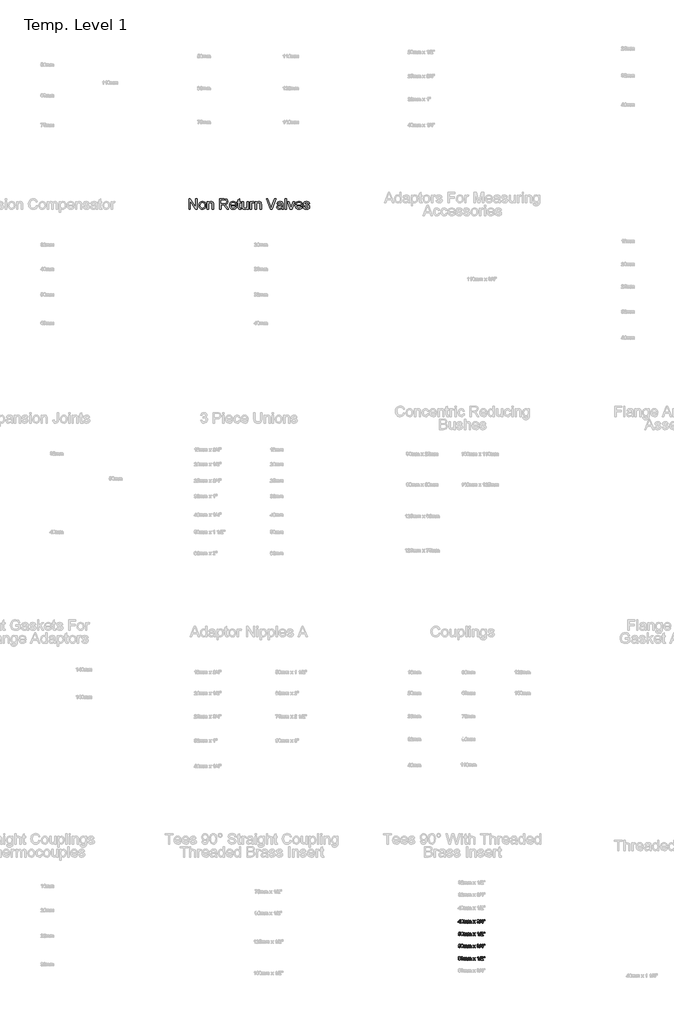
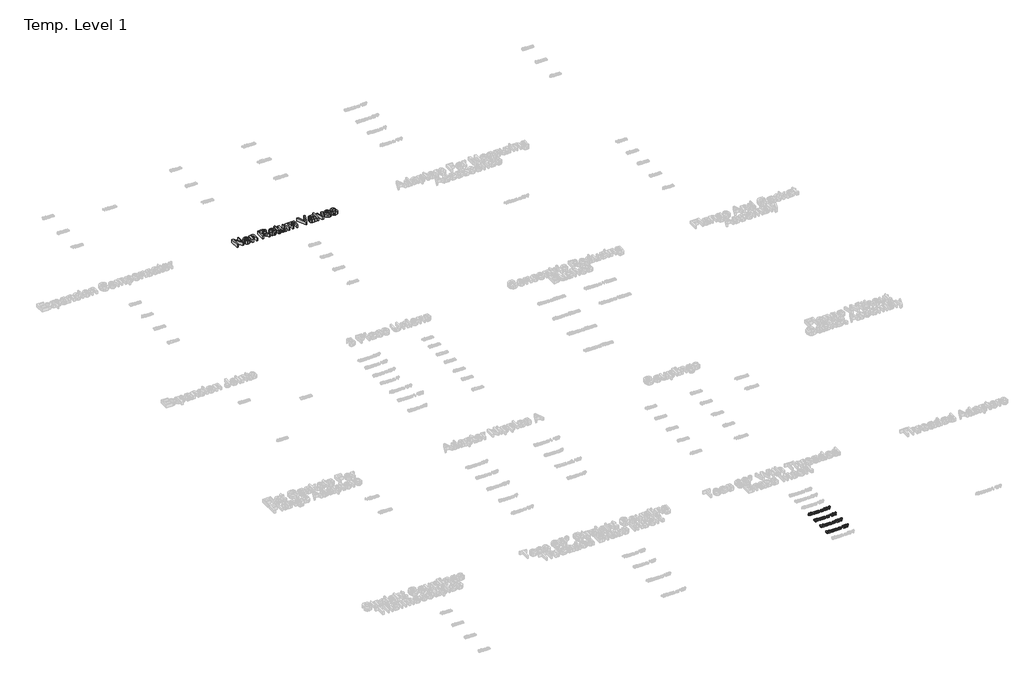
# One storey, part 17 of 62: 5 proxies.
"""IFC4 building model written with IfcOpenShell, lengths in millimetres."""

from ifc_helpers import new_model, si_unit, origin, origin_with_axes, place, context, project, spatial, polyline, outline, extrude, element, save

model = new_model("IFC4")

# Units and contexts
model_context = context("Model", 3, world=origin())
ifc_project = project(units=[si_unit("LENGTHUNIT", "METRE", prefix="MILLI")], contexts=[model_context])

# Site, building, storey
site = spatial("IfcSite", under=ifc_project)
building = spatial("IfcBuilding", under=site)
storey = spatial("IfcBuildingStorey", under=building, Name="Temp. Level 1", Elevation=0.0)

# Proxies
placement = place(None, origin())
element("IfcBuildingElementProxy", 1, Name="150mm Arial", ObjectType="150mm Arial", at=placement, inside=storey, context=model_context, shape_type="SweptSolid", body=[
    extrude(outline(polyline([(14575.7330212, -1070.198517), (14575.7330212, -922.5062093), (14595.4926365, -922.5062093), (14672.6560981, -1039.5134209), (14672.6560981, -922.5062093), (14691.1176365, -922.5062093), (14691.1176365, -1070.198517), (14671.3580212, -1070.198517), (14594.1945596, -953.1552478), (14594.1945596, -1070.198517), (14575.7330212, -1070.198517)])), origin_with_axes(), (0.0, 0.0, 1.0), 50.0),
    extrude(outline(polyline([(14716.5022519, -1015.9677478), (14720.4956413, -989.8169064), (14732.4758096, -971.4364978), (14747.2774923, -962.4310891), (14764.9998481, -959.4292862), (14784.3943793, -963.0846348), (14799.8856654, -974.0506805), (14810.040413, -991.4620387), (14813.4253288, -1014.4533247), (14811.9289346, -1033.1041661), (14807.4397519, -1047.3018824), (14800.0884899, -1057.9343944), (14790.0058577, -1065.8896228), (14778.0301966, -1070.8520627), (14764.9998481, -1072.5062093), (14745.3709418, -1068.8643824), (14729.8976846, -1057.9389016), (14719.8511101, -1040.1624593), (14716.5022519, -1015.9677478)]), holes=[polyline([(14734.9637904, -1015.9316901), (14737.1002087, -1032.6399233), (14743.5094635, -1044.5434689), (14753.1548962, -1051.6693704), (14764.9998481, -1054.0446709), (14776.7907135, -1051.6558487), (14786.4181173, -1044.4893824), (14792.8273721, -1032.4280843), (14794.9637904, -1015.354767), (14792.8138505, -999.1333127), (14786.3640308, -987.3920266), (14776.7231053, -980.2661252), (14764.9998481, -977.8908247), (14753.1548962, -980.2571108), (14743.5094635, -987.3559689), (14737.1002087, -999.2324713), (14734.9637904, -1015.9316901)])]), origin_with_axes(), (0.0, 0.0, 1.0), 50.0),
    extrude(outline(polyline([(14834.1945596, -1070.198517), (14834.1945596, -961.7369786), (14852.6560981, -961.7369786), (14852.6560981, -976.8812093), (14866.7726846, -963.792267), (14886.0455212, -959.4292862), (14903.4794154, -962.9449112), (14915.3784538, -972.1756805), (14920.9133096, -985.7514016), (14921.8868673, -1003.5999593), (14921.8868673, -1070.198517), (14903.4253288, -1070.198517), (14903.4253288, -1006.0879401), (14901.297925, -989.7538055), (14893.7798962, -981.1179882), (14881.1056173, -977.8908247), (14870.2928168, -979.7027237), (14861.0755692, -985.1384209), (14854.7609659, -995.6402237), (14852.6560981, -1012.6504401), (14852.6560981, -1070.198517), (14834.1945596, -1070.198517)])), origin_with_axes(), (0.0, 0.0, 1.0), 50.0),
    extrude(outline(polyline([(15007.2714827, -1070.198517), (15007.2714827, -922.5062093), (15070.9133096, -922.5062093), (15100.4625885, -926.4905843), (15109.5581413, -932.0074112), (15116.6164346, -940.589142), (15121.1461822, -951.2306685), (15122.6560981, -962.9268824), (15120.1545957, -977.4761612), (15112.6500885, -989.5374593), (15099.9172159, -998.3806084), (15081.7306173, -1003.2754401), (15092.2234058, -1011.1720747), (15107.1873481, -1030.1744786), (15131.8147519, -1070.198517), (15110.360425, -1070.198517), (15091.141675, -1039.5855362), (15077.2594635, -1019.3211132), (15067.5058577, -1009.7477959), (15058.7258096, -1006.2321709), (15048.016675, -1005.5831324), (15025.7330212, -1005.5831324), (15025.7330212, -1070.198517), (15007.2714827, -1070.198517)]), holes=[polyline([(15025.7330212, -987.1215939), (15067.0551365, -987.1215939), (15088.1308577, -984.5074112), (15100.1020115, -976.1420266), (15104.1945596, -963.6119786), (15102.242937, -954.6065699), (15096.3880692, -947.3499593), (15086.3144514, -942.5633007), (15071.7065788, -940.9677478), (15025.7330212, -940.9677478), (15025.7330212, -987.1215939)])]), origin_with_axes(), (0.0, 0.0, 1.0), 50.0),
    extrude(outline(polyline([(15228.5935981, -1037.8908247), (15246.6945596, -1040.198517), (15240.1726245, -1053.8373391), (15229.7654731, -1064.0326516), (15215.7074803, -1070.3878199), (15198.2330212, -1072.5062093), (15176.5713625, -1068.8508608), (15159.9036942, -1057.8848151), (15149.2756894, -1040.3202117), (15145.7330212, -1016.8691901), (15149.3117471, -992.6294064), (15160.047925, -974.5014016), (15176.4902327, -963.1973151), (15197.1873481, -959.4292862), (15217.2399322, -963.1883007), (15233.2630692, -974.4653439), (15243.7693793, -992.5572911), (15247.2714827, -1016.761017), (15247.1633096, -1021.7369786), (15164.1945596, -1021.7369786), (15167.3901726, -1035.5560891), (15174.81355, -1045.7153439), (15185.5271918, -1051.9623391), (15198.5935981, -1054.0446709), (15216.6945596, -1050.1864978), (15228.5935981, -1037.8908247)]), holes=[polyline([(15164.1945596, -1003.2754401), (15228.8099442, -1003.2754401), (15226.312949, -993.5218343), (15221.4181173, -986.5446709), (15210.6548962, -980.0542862), (15197.1152327, -977.8908247), (15184.6708216, -979.6170867), (15174.3808577, -984.7958728), (15167.227913, -992.8682887), (15164.1945596, -1003.2754401)])]), origin_with_axes(), (0.0, 0.0, 1.0), 50.0),
    extrude(outline(polyline([(15304.9637904, -1054.8018824), (15307.2714827, -1070.7393824), (15293.4613865, -1072.5062093), (15277.9926365, -1069.4413055), (15270.2762904, -1061.4004401), (15268.0407135, -1040.4509209), (15268.0407135, -980.198517), (15254.1945596, -980.198517), (15254.1945596, -961.7369786), (15268.0407135, -961.7369786), (15268.0407135, -935.3788055), (15286.5022519, -924.5254401), (15286.5022519, -961.7369786), (15304.9637904, -961.7369786), (15304.9637904, -980.198517), (15286.5022519, -980.198517), (15286.5022519, -1039.9100555), (15287.4758096, -1049.4292862), (15290.6308577, -1052.8006805), (15296.922925, -1054.0446709), (15304.9637904, -1054.8018824)])), origin_with_axes(), (0.0, 0.0, 1.0), 50.0),
    extrude(outline(polyline([(15392.6560981, -1070.198517), (15392.6560981, -1051.5566901), (15378.1969635, -1067.2688295), (15359.3387904, -1072.5062093), (15341.9770115, -1068.8283247), (15330.0058577, -1059.5975555), (15324.5070596, -1046.0038055), (15323.4253288, -1028.8403439), (15323.4253288, -961.7369786), (15341.8868673, -961.7369786), (15341.8868673, -1020.1504401), (15343.0046558, -1038.9725555), (15350.3063385, -1050.0242382), (15364.0623481, -1054.0446709), (15379.4770115, -1049.9340939), (15389.6633096, -1038.7381805), (15392.6560981, -1018.167267), (15392.6560981, -961.7369786), (15411.1176365, -961.7369786), (15411.1176365, -1070.198517), (15392.6560981, -1070.198517)])), origin_with_axes(), (0.0, 0.0, 1.0), 50.0),
    extrude(outline(polyline([(15436.5022519, -1070.198517), (15436.5022519, -961.7369786), (15452.6560981, -961.7369786), (15452.6560981, -977.7826516), (15464.1224442, -962.9989978), (15475.6609058, -959.4292862), (15494.1945596, -965.1264016), (15488.0286942, -981.6768824), (15475.047925, -977.8908247), (15464.6092231, -981.5326516), (15457.9565788, -991.6288055), (15454.9637904, -1013.1913055), (15454.9637904, -1070.198517), (15436.5022519, -1070.198517)])), origin_with_axes(), (0.0, 0.0, 1.0), 50.0),
    extrude(outline(polyline([(15505.7330212, -1070.198517), (15505.7330212, -961.7369786), (15524.1945596, -961.7369786), (15524.1945596, -976.8812093), (15538.3111462, -963.792267), (15557.5839827, -959.4292862), (15575.0178769, -962.9449112), (15586.9169154, -972.1756805), (15592.4517712, -985.7514016), (15593.4253288, -1003.5999593), (15593.4253288, -1070.198517), (15574.9637904, -1070.198517), (15574.9637904, -1006.0879401), (15572.8363865, -989.7538055), (15565.3183577, -981.1179882), (15552.6440788, -977.8908247), (15541.8312784, -979.7027237), (15532.6140308, -985.1384209), (15526.2994274, -995.6402237), (15524.1945596, -1012.6504401), (15524.1945596, -1070.198517), (15505.7330212, -1070.198517)])), origin_with_axes(), (0.0, 0.0, 1.0), 50.0),
    extrude(outline(polyline([(15722.4397519, -1070.198517), (15663.6657135, -922.5062093), (15683.4253288, -922.5062093), (15722.7642712, -1028.9124593), (15730.7330212, -1052.8908247), (15738.5935981, -1028.9124593), (15778.0407135, -922.5062093), (15797.8003288, -922.5062093), (15741.5142712, -1070.198517), (15722.4397519, -1070.198517)])), origin_with_axes(), (0.0, 0.0, 1.0), 50.0),
    extrude(outline(polyline([(15881.8868673, -1056.3523632), (15863.9842231, -1068.8643824), (15844.2065788, -1072.5062093), (15828.7783938, -1070.3157045), (15817.3976846, -1063.7441901), (15810.3799563, -1053.7652237), (15808.0407135, -1041.3523632), (15811.5743673, -1026.7489978), (15820.8592231, -1016.1480362), (15833.7859058, -1010.0903439), (15849.7594635, -1007.3139016), (15881.7786942, -1000.9677478), (15881.8868673, -996.8571709), (15880.6158337, -988.6179882), (15876.8027327, -983.2273632), (15868.2750885, -979.2249593), (15856.3940788, -977.8908247), (15837.7161942, -981.4425074), (15828.8099442, -994.0446709), (15810.3484058, -991.7369786), (15818.3351846, -973.7081324), (15834.4169154, -963.1432286), (15858.7738865, -959.4292862), (15881.1476846, -962.7105362), (15893.7859058, -970.9497189), (15899.4469635, -983.479767), (15900.3484058, -999.6336132), (15900.3484058, -1022.6023632), (15901.2859058, -1054.6756805), (15904.9637904, -1070.198517), (15886.5022519, -1070.198517), (15881.8868673, -1056.3523632)]), holes=[polyline([(15881.8868673, -1019.4292862), (15852.1032135, -1025.0903439), (15836.2198, -1028.0831324), (15829.0262904, -1032.9509209), (15826.5022519, -1040.0542862), (15832.00105, -1050.042267), (15848.1368673, -1054.0446709), (15866.8147519, -1049.6276036), (15878.8580212, -1038.9364978), (15881.7786942, -1024.6576516), (15881.8868673, -1019.4292862)])]), origin_with_axes(), (0.0, 0.0, 1.0), 50.0),
    extrude(outline(polyline([(15925.7330212, -1070.198517), (15925.7330212, -922.5062093), (15944.1945596, -922.5062093), (15944.1945596, -1070.198517), (15925.7330212, -1070.198517)])), origin_with_axes(), (0.0, 0.0, 1.0), 50.0),
    extrude(outline(polyline([(15998.4974442, -1070.198517), (15960.3484058, -961.7369786), (15979.891675, -961.7369786), (16003.0046558, -1026.7129401), (16009.9637904, -1048.5639016), (16016.7786942, -1027.9389016), (16040.0359058, -961.7369786), (16059.579175, -961.7369786), (16021.8988865, -1070.198517), (15998.4974442, -1070.198517)])), origin_with_axes(), (0.0, 0.0, 1.0), 50.0),
    extrude(outline(polyline([(16151.6705212, -1037.8908247), (16169.7714827, -1040.198517), (16163.2495476, -1053.8373391), (16152.8423962, -1064.0326516), (16138.7844034, -1070.3878199), (16121.3099442, -1072.5062093), (16099.6482856, -1068.8508608), (16082.9806173, -1057.8848151), (16072.3526125, -1040.3202117), (16068.8099442, -1016.8691901), (16072.3886702, -992.6294064), (16083.1248481, -974.5014016), (16099.5671558, -963.1973151), (16120.2642712, -959.4292862), (16140.3168553, -963.1883007), (16156.3399923, -974.4653439), (16166.8463024, -992.5572911), (16170.3484058, -1016.761017), (16170.2402327, -1021.7369786), (16087.2714827, -1021.7369786), (16090.4670957, -1035.5560891), (16097.8904731, -1045.7153439), (16108.6041149, -1051.9623391), (16121.6705212, -1054.0446709), (16139.7714827, -1050.1864978), (16151.6705212, -1037.8908247)]), holes=[polyline([(16087.2714827, -1003.2754401), (16151.8868673, -1003.2754401), (16149.3898721, -993.5218343), (16144.4950404, -986.5446709), (16133.7318192, -980.0542862), (16120.1921558, -977.8908247), (16107.7477447, -979.6170867), (16097.4577808, -984.7958728), (16090.3048361, -992.8682887), (16087.2714827, -1003.2754401)])]), origin_with_axes(), (0.0, 0.0, 1.0), 50.0),
    extrude(outline(polyline([(16181.8868673, -1037.8908247), (16200.3484058, -1035.5831324), (16203.2600644, -1043.479767), (16208.8940788, -1049.2850555), (16228.4734058, -1054.0446709), (16247.2955212, -1049.6816901), (16253.4253288, -1039.4413055), (16247.2594635, -1031.1480362), (16228.2570596, -1025.8836132), (16200.4565788, -1016.8511612), (16188.3231654, -1006.3042862), (16184.1945596, -991.4124593), (16187.5118673, -977.6564497), (16196.5623481, -967.1456324), (16208.2991269, -961.682892), (16224.1825404, -959.4292862), (16246.6464827, -963.0530843), (16260.9253288, -972.8607766), (16267.2714827, -989.4292862), (16248.8099442, -991.7369786), (16241.8688385, -981.5506805), (16225.6248481, -977.8908247), (16207.9565788, -981.3884209), (16202.6560981, -989.5374593), (16204.8556173, -994.9100555), (16211.7426365, -998.9845747), (16227.6440788, -1002.9148632), (16254.7414346, -1011.604767), (16267.3255692, -1021.448517), (16271.8868673, -1037.4941901), (16266.5323, -1055.1624593), (16251.0815788, -1067.9809689), (16228.2210019, -1072.5062093), (16209.6062183, -1070.3247189), (16196.0214827, -1063.7802478), (16186.9529731, -1052.9449112), (16181.8868673, -1037.8908247)])), origin_with_axes(), (0.0, 0.0, 1.0), 50.0),
])
element("IfcBuildingElementProxy", 2, Name="50mm Arial", ObjectType="50mm Arial", at=placement, inside=storey, context=model_context, shape_type="SweptSolid", body=[
    extrude(outline(polyline([(18379.5497295, -11087.301875), (18379.5497295, -11075.7634134), (18357.2420372, -11075.7634134), (18357.2420372, -11069.6095673), (18381.0881911, -11038.8403365), (18385.7035757, -11038.8403365), (18385.7035757, -11069.6095673), (18391.8574218, -11069.6095673), (18391.8574218, -11075.7634134), (18385.7035757, -11075.7634134), (18385.7035757, -11087.301875), (18379.5497295, -11087.301875)]), holes=[polyline([(18379.5497295, -11069.6095673), (18379.5497295, -11050.5951442), (18364.8141526, -11069.6095673), (18379.5497295, -11069.6095673)])]), origin_with_axes(), (0.0, 0.0, 1.0), 15.0),
    extrude(outline(polyline([(18397.2420372, -11063.083125), (18399.0509314, -11048.9184615), (18404.4235276, -11040.7513942), (18413.3958834, -11038.0711057), (18420.5833834, -11039.6576442), (18425.5473257, -11044.2309615), (18428.4319411, -11051.5146154), (18429.5497295, -11063.083125), (18427.7588641, -11077.1876923), (18422.4042968, -11085.3727884), (18413.3958834, -11088.0711057), (18402.1458834, -11083.3836057), (18398.4679987, -11075.0572836), (18397.2420372, -11063.083125)]), holes=[polyline([(18403.3958834, -11063.0711057), (18406.2804987, -11078.3535577), (18413.3958834, -11081.9172596), (18420.511268, -11078.3415384), (18423.3958834, -11063.0711057), (18420.6074218, -11047.9629327), (18413.323768, -11044.2249519), (18406.3766526, -11047.5182211), (18403.3958834, -11063.0711057)])]), origin_with_axes(), (0.0, 0.0, 1.0), 15.0),
    extrude(outline(polyline([(18436.4728064, -11087.301875), (18436.4728064, -11051.1480288), (18442.6266526, -11051.1480288), (18442.6266526, -11057.0975481), (18446.8574218, -11052.22375), (18452.8790564, -11050.3787981), (18459.0449218, -11052.2598077), (18462.4343449, -11057.5302404), (18467.2360276, -11052.1666586), (18473.2997295, -11050.3787981), (18481.3466045, -11053.3535577), (18484.1651141, -11062.5182211), (18484.1651141, -11087.301875), (18478.011268, -11087.301875), (18478.011268, -11065.1624519), (18477.4403545, -11060.0242307), (18475.3730468, -11057.4941827), (18471.8574218, -11056.5326442), (18465.8057391, -11058.9965865), (18463.3958834, -11066.8932211), (18463.3958834, -11087.301875), (18457.2420372, -11087.301875), (18457.2420372, -11064.4773557), (18455.8177584, -11058.5158173), (18451.1482872, -11056.5326442), (18446.5929987, -11057.8547596), (18443.5641526, -11061.7249519), (18442.6266526, -11069.0687019), (18442.6266526, -11087.301875), (18436.4728064, -11087.301875)])), origin_with_axes(), (0.0, 0.0, 1.0), 15.0),
    extrude(outline(polyline([(18493.3958834, -11087.301875), (18493.3958834, -11051.1480288), (18499.5497295, -11051.1480288), (18499.5497295, -11057.0975481), (18503.7804987, -11052.22375), (18509.8021334, -11050.3787981), (18515.9679987, -11052.2598077), (18519.3574218, -11057.5302404), (18524.1591045, -11052.1666586), (18530.2228064, -11050.3787981), (18538.2696814, -11053.3535577), (18541.0881911, -11062.5182211), (18541.0881911, -11087.301875), (18534.9343449, -11087.301875), (18534.9343449, -11065.1624519), (18534.3634314, -11060.0242307), (18532.2961237, -11057.4941827), (18528.7804987, -11056.5326442), (18522.7288161, -11058.9965865), (18520.3189603, -11066.8932211), (18520.3189603, -11087.301875), (18514.1651141, -11087.301875), (18514.1651141, -11064.4773557), (18512.7408353, -11058.5158173), (18508.0713641, -11056.5326442), (18503.5160757, -11057.8547596), (18500.4872295, -11061.7249519), (18499.5497295, -11069.0687019), (18499.5497295, -11087.301875), (18493.3958834, -11087.301875)])), origin_with_axes(), (0.0, 0.0, 1.0), 15.0),
    extrude(outline(polyline([(18565.7035757, -11087.301875), (18578.8526141, -11069.1287981), (18566.4728064, -11051.1480288), (18573.8766526, -11051.1480288), (18579.8502103, -11059.801875), (18582.6386718, -11063.8884134), (18585.0545372, -11060.5470673), (18591.8574218, -11051.1480288), (18599.261268, -11051.1480288), (18586.2564603, -11069.1287981), (18598.7804987, -11087.301875), (18591.3766526, -11087.301875), (18583.8405949, -11076.3763942), (18582.4583834, -11074.3812019), (18573.1074218, -11087.301875), (18565.7035757, -11087.301875)])), origin_with_axes(), (0.0, 0.0, 1.0), 15.0),
    extrude(outline(polyline([(18621.8574218, -11074.2249519), (18628.011268, -11073.4557211), (18631.4067007, -11079.9340865), (18637.7588641, -11081.9172596), (18645.2348257, -11079.1888942), (18648.011268, -11072.4340865), (18645.2588641, -11066.0699038), (18638.2636718, -11063.551875), (18633.948768, -11064.2249519), (18634.6338641, -11058.0711057), (18642.6026141, -11056.3763942), (18645.7035757, -11050.9437019), (18643.4559795, -11046.13), (18637.6627103, -11044.2249519), (18631.7973257, -11046.1480288), (18628.7804987, -11051.9172596), (18622.6266526, -11051.1480288), (18627.6627103, -11041.4965865), (18637.4463641, -11038.0711057), (18644.8682391, -11039.7598077), (18650.0605468, -11044.3751923), (18651.8574218, -11050.583125), (18650.1506911, -11056.2562019), (18645.1026141, -11060.3307211), (18651.8093449, -11064.5374519), (18654.1651141, -11072.5422596), (18649.4535757, -11083.551875), (18637.542518, -11088.0711057), (18626.7492487, -11084.2129327), (18621.8574218, -11074.2249519)])), origin_with_axes(), (0.0, 0.0, 1.0), 15.0),
    extrude(outline(polyline([(18656.4728064, -11087.301875), (18670.3189603, -11038.0711057), (18675.8718449, -11038.0711057), (18662.0256911, -11087.301875), (18656.4728064, -11087.301875)])), origin_with_axes(), (0.0, 0.0, 1.0), 15.0),
    extrude(outline(polyline([(18698.7804987, -11087.301875), (18698.7804987, -11075.7634134), (18676.4728064, -11075.7634134), (18676.4728064, -11069.6095673), (18700.3189603, -11038.8403365), (18704.9343449, -11038.8403365), (18704.9343449, -11069.6095673), (18711.0881911, -11069.6095673), (18711.0881911, -11075.7634134), (18704.9343449, -11075.7634134), (18704.9343449, -11087.301875), (18698.7804987, -11087.301875)]), holes=[polyline([(18698.7804987, -11069.6095673), (18698.7804987, -11050.5951442), (18684.0449218, -11069.6095673), (18698.7804987, -11069.6095673)])]), origin_with_axes(), (0.0, 0.0, 1.0), 15.0),
    extrude(outline(polyline([(18730.2468449, -11055.7634134), (18728.7804987, -11046.2562019), (18728.7804987, -11038.0711057), (18734.9343449, -11038.0711057), (18734.9343449, -11046.2562019), (18733.4920372, -11055.7634134), (18730.2468449, -11055.7634134)])), origin_with_axes(), (0.0, 0.0, 1.0), 15.0),
    extrude(outline(polyline([(18717.9752103, -11055.7634134), (18716.4728064, -11046.2562019), (18716.4728064, -11038.0711057), (18722.6266526, -11038.0711057), (18722.6266526, -11046.2562019), (18721.2804987, -11055.7634134), (18717.9752103, -11055.7634134)])), origin_with_axes(), (0.0, 0.0, 1.0), 15.0),
])
element("IfcBuildingElementProxy", 3, Name="50mm Arial", ObjectType="50mm Arial", at=placement, inside=storey, context=model_context, shape_type="SweptSolid", body=[
    extrude(outline(polyline([(18359.5497295, -11249.2249519), (18365.7035757, -11248.4557211), (18368.8045372, -11254.7958654), (18375.2348257, -11256.9172596), (18382.9511718, -11253.9665384), (18385.7035757, -11246.1360096), (18383.1254507, -11238.8283173), (18375.3309795, -11236.1480288), (18369.9283353, -11237.2177404), (18366.4728064, -11239.9941827), (18360.3189603, -11239.2249519), (18365.7035757, -11213.8403365), (18389.5497295, -11213.8403365), (18389.5497295, -11219.9941827), (18370.6795372, -11219.9941827), (18368.0473257, -11233.551875), (18377.0497295, -11229.9941827), (18387.5725661, -11234.4052404), (18391.8574218, -11245.7513942), (18387.9992487, -11257.1696634), (18382.4583834, -11261.5957452), (18375.2107872, -11263.0711057), (18364.3514122, -11259.2790384), (18359.5497295, -11249.2249519)])), origin_with_axes(), (0.0, 0.0, 1.0), 15.0),
    extrude(outline(polyline([(18397.2420372, -11238.083125), (18399.0509314, -11223.9184615), (18404.4235276, -11215.7513942), (18413.3958834, -11213.0711057), (18420.5833834, -11214.6576442), (18425.5473257, -11219.2309615), (18428.4319411, -11226.5146154), (18429.5497295, -11238.083125), (18427.7588641, -11252.1876923), (18422.4042968, -11260.3727884), (18413.3958834, -11263.0711057), (18402.1458834, -11258.3836057), (18398.4679987, -11250.0572836), (18397.2420372, -11238.083125)]), holes=[polyline([(18403.3958834, -11238.0711057), (18406.2804987, -11253.3535577), (18413.3958834, -11256.9172596), (18420.511268, -11253.3415384), (18423.3958834, -11238.0711057), (18420.6074218, -11222.9629327), (18413.323768, -11219.2249519), (18406.3766526, -11222.5182211), (18403.3958834, -11238.0711057)])]), origin_with_axes(), (0.0, 0.0, 1.0), 15.0),
    extrude(outline(polyline([(18436.4728064, -11262.301875), (18436.4728064, -11226.1480288), (18442.6266526, -11226.1480288), (18442.6266526, -11232.0975481), (18446.8574218, -11227.22375), (18452.8790564, -11225.3787981), (18459.0449218, -11227.2598077), (18462.4343449, -11232.5302404), (18467.2360276, -11227.1666586), (18473.2997295, -11225.3787981), (18481.3466045, -11228.3535577), (18484.1651141, -11237.5182211), (18484.1651141, -11262.301875), (18478.011268, -11262.301875), (18478.011268, -11240.1624519), (18477.4403545, -11235.0242307), (18475.3730468, -11232.4941827), (18471.8574218, -11231.5326442), (18465.8057391, -11233.9965865), (18463.3958834, -11241.8932211), (18463.3958834, -11262.301875), (18457.2420372, -11262.301875), (18457.2420372, -11239.4773557), (18455.8177584, -11233.5158173), (18451.1482872, -11231.5326442), (18446.5929987, -11232.8547596), (18443.5641526, -11236.7249519), (18442.6266526, -11244.0687019), (18442.6266526, -11262.301875), (18436.4728064, -11262.301875)])), origin_with_axes(), (0.0, 0.0, 1.0), 15.0),
    extrude(outline(polyline([(18493.3958834, -11262.301875), (18493.3958834, -11226.1480288), (18499.5497295, -11226.1480288), (18499.5497295, -11232.0975481), (18503.7804987, -11227.22375), (18509.8021334, -11225.3787981), (18515.9679987, -11227.2598077), (18519.3574218, -11232.5302404), (18524.1591045, -11227.1666586), (18530.2228064, -11225.3787981), (18538.2696814, -11228.3535577), (18541.0881911, -11237.5182211), (18541.0881911, -11262.301875), (18534.9343449, -11262.301875), (18534.9343449, -11240.1624519), (18534.3634314, -11235.0242307), (18532.2961237, -11232.4941827), (18528.7804987, -11231.5326442), (18522.7288161, -11233.9965865), (18520.3189603, -11241.8932211), (18520.3189603, -11262.301875), (18514.1651141, -11262.301875), (18514.1651141, -11239.4773557), (18512.7408353, -11233.5158173), (18508.0713641, -11231.5326442), (18503.5160757, -11232.8547596), (18500.4872295, -11236.7249519), (18499.5497295, -11244.0687019), (18499.5497295, -11262.301875), (18493.3958834, -11262.301875)])), origin_with_axes(), (0.0, 0.0, 1.0), 15.0),
    extrude(outline(polyline([(18565.7035757, -11262.301875), (18578.8526141, -11244.1287981), (18566.4728064, -11226.1480288), (18573.8766526, -11226.1480288), (18579.8502103, -11234.801875), (18582.6386718, -11238.8884134), (18585.0545372, -11235.5470673), (18591.8574218, -11226.1480288), (18599.261268, -11226.1480288), (18586.2564603, -11244.1287981), (18598.7804987, -11262.301875), (18591.3766526, -11262.301875), (18583.8405949, -11251.3763942), (18582.4583834, -11249.3812019), (18573.1074218, -11262.301875), (18565.7035757, -11262.301875)])), origin_with_axes(), (0.0, 0.0, 1.0), 15.0),
    extrude(outline(polyline([(18644.9343449, -11262.301875), (18638.7804987, -11262.301875), (18638.7804987, -11223.9364904), (18632.9511718, -11228.0891346), (18626.4728064, -11231.1961057), (18626.4728064, -11225.3787981), (18635.4932391, -11219.6215865), (18640.9679987, -11213.0711057), (18644.9343449, -11213.0711057), (18644.9343449, -11262.301875)])), origin_with_axes(), (0.0, 0.0, 1.0), 15.0),
    extrude(outline(polyline([(18656.4728064, -11262.301875), (18670.3189603, -11213.0711057), (18675.8718449, -11213.0711057), (18662.0256911, -11262.301875), (18656.4728064, -11262.301875)])), origin_with_axes(), (0.0, 0.0, 1.0), 15.0),
    extrude(outline(polyline([(18710.3189603, -11256.1480288), (18710.3189603, -11262.301875), (18678.011268, -11262.301875), (18678.6723257, -11258.0590865), (18682.4103064, -11251.5266346), (18690.1146334, -11244.3932211), (18700.7396334, -11234.1408173), (18703.3958834, -11227.1696634), (18700.8898737, -11221.5266346), (18694.3454026, -11219.2249519), (18687.5244891, -11221.4725481), (18684.9343449, -11227.6864904), (18678.7804987, -11226.9172596), (18683.4980468, -11216.6167788), (18694.4776141, -11213.0711057), (18705.4932391, -11217.0134134), (18709.5497295, -11226.7970673), (18708.4559795, -11232.6324038), (18704.8201622, -11238.6660577), (18696.0040564, -11247.0975481), (18688.9247295, -11253.0170192), (18686.1482872, -11256.1480288), (18710.3189603, -11256.1480288)])), origin_with_axes(), (0.0, 0.0, 1.0), 15.0),
    extrude(outline(polyline([(18730.2468449, -11230.7634134), (18728.7804987, -11221.2562019), (18728.7804987, -11213.0711057), (18734.9343449, -11213.0711057), (18734.9343449, -11221.2562019), (18733.4920372, -11230.7634134), (18730.2468449, -11230.7634134)])), origin_with_axes(), (0.0, 0.0, 1.0), 15.0),
    extrude(outline(polyline([(18717.9752103, -11230.7634134), (18716.4728064, -11221.2562019), (18716.4728064, -11213.0711057), (18722.6266526, -11213.0711057), (18722.6266526, -11221.2562019), (18721.2804987, -11230.7634134), (18717.9752103, -11230.7634134)])), origin_with_axes(), (0.0, 0.0, 1.0), 15.0),
])
element("IfcBuildingElementProxy", 4, Name="50mm Arial", ObjectType="50mm Arial", at=placement, inside=storey, context=model_context, shape_type="SweptSolid", body=[
    extrude(outline(polyline([(18359.5497295, -11419.2249519), (18365.7035757, -11418.4557211), (18368.8045372, -11424.7958654), (18375.2348257, -11426.9172596), (18382.9511718, -11423.9665384), (18385.7035757, -11416.1360096), (18383.1254507, -11408.8283173), (18375.3309795, -11406.1480288), (18369.9283353, -11407.2177404), (18366.4728064, -11409.9941827), (18360.3189603, -11409.2249519), (18365.7035757, -11383.8403365), (18389.5497295, -11383.8403365), (18389.5497295, -11389.9941827), (18370.6795372, -11389.9941827), (18368.0473257, -11403.551875), (18377.0497295, -11399.9941827), (18387.5725661, -11404.4052404), (18391.8574218, -11415.7513942), (18387.9992487, -11427.1696634), (18382.4583834, -11431.5957452), (18375.2107872, -11433.0711057), (18364.3514122, -11429.2790384), (18359.5497295, -11419.2249519)])), origin_with_axes(), (0.0, 0.0, 1.0), 15.0),
    extrude(outline(polyline([(18397.2420372, -11408.083125), (18399.0509314, -11393.9184615), (18404.4235276, -11385.7513942), (18413.3958834, -11383.0711057), (18420.5833834, -11384.6576442), (18425.5473257, -11389.2309615), (18428.4319411, -11396.5146154), (18429.5497295, -11408.083125), (18427.7588641, -11422.1876923), (18422.4042968, -11430.3727884), (18413.3958834, -11433.0711057), (18402.1458834, -11428.3836057), (18398.4679987, -11420.0572836), (18397.2420372, -11408.083125)]), holes=[polyline([(18403.3958834, -11408.0711057), (18406.2804987, -11423.3535577), (18413.3958834, -11426.9172596), (18420.511268, -11423.3415384), (18423.3958834, -11408.0711057), (18420.6074218, -11392.9629327), (18413.323768, -11389.2249519), (18406.3766526, -11392.5182211), (18403.3958834, -11408.0711057)])]), origin_with_axes(), (0.0, 0.0, 1.0), 15.0),
    extrude(outline(polyline([(18436.4728064, -11432.301875), (18436.4728064, -11396.1480288), (18442.6266526, -11396.1480288), (18442.6266526, -11402.0975481), (18446.8574218, -11397.22375), (18452.8790564, -11395.3787981), (18459.0449218, -11397.2598077), (18462.4343449, -11402.5302404), (18467.2360276, -11397.1666586), (18473.2997295, -11395.3787981), (18481.3466045, -11398.3535577), (18484.1651141, -11407.5182211), (18484.1651141, -11432.301875), (18478.011268, -11432.301875), (18478.011268, -11410.1624519), (18477.4403545, -11405.0242307), (18475.3730468, -11402.4941827), (18471.8574218, -11401.5326442), (18465.8057391, -11403.9965865), (18463.3958834, -11411.8932211), (18463.3958834, -11432.301875), (18457.2420372, -11432.301875), (18457.2420372, -11409.4773557), (18455.8177584, -11403.5158173), (18451.1482872, -11401.5326442), (18446.5929987, -11402.8547596), (18443.5641526, -11406.7249519), (18442.6266526, -11414.0687019), (18442.6266526, -11432.301875), (18436.4728064, -11432.301875)])), origin_with_axes(), (0.0, 0.0, 1.0), 15.0),
    extrude(outline(polyline([(18493.3958834, -11432.301875), (18493.3958834, -11396.1480288), (18499.5497295, -11396.1480288), (18499.5497295, -11402.0975481), (18503.7804987, -11397.22375), (18509.8021334, -11395.3787981), (18515.9679987, -11397.2598077), (18519.3574218, -11402.5302404), (18524.1591045, -11397.1666586), (18530.2228064, -11395.3787981), (18538.2696814, -11398.3535577), (18541.0881911, -11407.5182211), (18541.0881911, -11432.301875), (18534.9343449, -11432.301875), (18534.9343449, -11410.1624519), (18534.3634314, -11405.0242307), (18532.2961237, -11402.4941827), (18528.7804987, -11401.5326442), (18522.7288161, -11403.9965865), (18520.3189603, -11411.8932211), (18520.3189603, -11432.301875), (18514.1651141, -11432.301875), (18514.1651141, -11409.4773557), (18512.7408353, -11403.5158173), (18508.0713641, -11401.5326442), (18503.5160757, -11402.8547596), (18500.4872295, -11406.7249519), (18499.5497295, -11414.0687019), (18499.5497295, -11432.301875), (18493.3958834, -11432.301875)])), origin_with_axes(), (0.0, 0.0, 1.0), 15.0),
    extrude(outline(polyline([(18565.7035757, -11432.301875), (18578.8526141, -11414.1287981), (18566.4728064, -11396.1480288), (18573.8766526, -11396.1480288), (18579.8502103, -11404.801875), (18582.6386718, -11408.8884134), (18585.0545372, -11405.5470673), (18591.8574218, -11396.1480288), (18599.261268, -11396.1480288), (18586.2564603, -11414.1287981), (18598.7804987, -11432.301875), (18591.3766526, -11432.301875), (18583.8405949, -11421.3763942), (18582.4583834, -11419.3812019), (18573.1074218, -11432.301875), (18565.7035757, -11432.301875)])), origin_with_axes(), (0.0, 0.0, 1.0), 15.0),
    extrude(outline(polyline([(18621.8574218, -11419.2249519), (18628.011268, -11418.4557211), (18631.4067007, -11424.9340865), (18637.7588641, -11426.9172596), (18645.2348257, -11424.1888942), (18648.011268, -11417.4340865), (18645.2588641, -11411.0699038), (18638.2636718, -11408.551875), (18633.948768, -11409.2249519), (18634.6338641, -11403.0711057), (18642.6026141, -11401.3763942), (18645.7035757, -11395.9437019), (18643.4559795, -11391.13), (18637.6627103, -11389.2249519), (18631.7973257, -11391.1480288), (18628.7804987, -11396.9172596), (18622.6266526, -11396.1480288), (18627.6627103, -11386.4965865), (18637.4463641, -11383.0711057), (18644.8682391, -11384.7598077), (18650.0605468, -11389.3751923), (18651.8574218, -11395.583125), (18650.1506911, -11401.2562019), (18645.1026141, -11405.3307211), (18651.8093449, -11409.5374519), (18654.1651141, -11417.5422596), (18649.4535757, -11428.551875), (18637.542518, -11433.0711057), (18626.7492487, -11429.2129327), (18621.8574218, -11419.2249519)])), origin_with_axes(), (0.0, 0.0, 1.0), 15.0),
    extrude(outline(polyline([(18656.4728064, -11432.301875), (18670.3189603, -11383.0711057), (18675.8718449, -11383.0711057), (18662.0256911, -11432.301875), (18656.4728064, -11432.301875)])), origin_with_axes(), (0.0, 0.0, 1.0), 15.0),
    extrude(outline(polyline([(18698.7804987, -11432.301875), (18698.7804987, -11420.7634134), (18676.4728064, -11420.7634134), (18676.4728064, -11414.6095673), (18700.3189603, -11383.8403365), (18704.9343449, -11383.8403365), (18704.9343449, -11414.6095673), (18711.0881911, -11414.6095673), (18711.0881911, -11420.7634134), (18704.9343449, -11420.7634134), (18704.9343449, -11432.301875), (18698.7804987, -11432.301875)]), holes=[polyline([(18698.7804987, -11414.6095673), (18698.7804987, -11395.5951442), (18684.0449218, -11414.6095673), (18698.7804987, -11414.6095673)])]), origin_with_axes(), (0.0, 0.0, 1.0), 15.0),
    extrude(outline(polyline([(18730.2468449, -11400.7634134), (18728.7804987, -11391.2562019), (18728.7804987, -11383.0711057), (18734.9343449, -11383.0711057), (18734.9343449, -11391.2562019), (18733.4920372, -11400.7634134), (18730.2468449, -11400.7634134)])), origin_with_axes(), (0.0, 0.0, 1.0), 15.0),
    extrude(outline(polyline([(18717.9752103, -11400.7634134), (18716.4728064, -11391.2562019), (18716.4728064, -11383.0711057), (18722.6266526, -11383.0711057), (18722.6266526, -11391.2562019), (18721.2804987, -11400.7634134), (18717.9752103, -11400.7634134)])), origin_with_axes(), (0.0, 0.0, 1.0), 15.0),
])
element("IfcBuildingElementProxy", 5, Name="50mm Arial", ObjectType="50mm Arial", at=placement, inside=storey, context=model_context, shape_type="SweptSolid", body=[
    extrude(outline(polyline([(18391.0881911, -11571.1480288), (18384.9343449, -11571.9172596), (18382.6026141, -11566.7850481), (18376.4367487, -11564.2249519), (18370.8838641, -11565.7153365), (18366.683143, -11571.3102884), (18364.9343449, -11582.2778365), (18370.3610276, -11577.3679807), (18377.0857872, -11575.7634134), (18387.542518, -11580.1504327), (18391.8574218, -11591.4845673), (18389.8261718, -11599.9761538), (18384.2372295, -11605.9857692), (18376.1723257, -11608.0711057), (18363.6302584, -11602.5422596), (18359.9929386, -11595.2225481), (18358.7804987, -11584.3211057), (18360.1266526, -11572.0644952), (18364.1651141, -11563.6840865), (18369.6789362, -11559.4743509), (18376.8213641, -11558.0711057), (18386.5449218, -11561.5446634), (18391.0881911, -11571.1480288)]), holes=[polyline([(18364.9343449, -11591.3884134), (18366.3586237, -11596.7189423), (18370.1446814, -11600.5891346), (18375.6915564, -11601.9172596), (18382.9451622, -11599.1648557), (18385.7035757, -11591.6888942), (18382.9812199, -11584.5314423), (18375.4391526, -11581.9172596), (18367.9932391, -11584.5314423), (18364.9343449, -11591.3884134)])]), origin_with_axes(), (0.0, 0.0, 1.0), 15.0),
    extrude(outline(polyline([(18397.2420372, -11594.2249519), (18403.3958834, -11593.4557211), (18406.7913161, -11599.9340865), (18413.1434795, -11601.9172596), (18420.6194411, -11599.1888942), (18423.3958834, -11592.4340865), (18420.6434795, -11586.0699038), (18413.6482872, -11583.551875), (18409.3333834, -11584.2249519), (18410.0184795, -11578.0711057), (18417.9872295, -11576.3763942), (18421.0881911, -11570.9437019), (18418.8405949, -11566.13), (18413.0473257, -11564.2249519), (18407.1819411, -11566.1480288), (18404.1651141, -11571.9172596), (18398.011268, -11571.1480288), (18403.0473257, -11561.4965865), (18412.8309795, -11558.0711057), (18420.2528545, -11559.7598077), (18425.4451622, -11564.3751923), (18427.2420372, -11570.583125), (18425.5353064, -11576.2562019), (18420.4872295, -11580.3307211), (18427.1939603, -11584.5374519), (18429.5497295, -11592.5422596), (18424.8381911, -11603.551875), (18412.9271334, -11608.0711057), (18402.1338641, -11604.2129327), (18397.2420372, -11594.2249519)])), origin_with_axes(), (0.0, 0.0, 1.0), 15.0),
    extrude(outline(polyline([(18436.4728064, -11607.301875), (18436.4728064, -11571.1480288), (18442.6266526, -11571.1480288), (18442.6266526, -11577.0975481), (18446.8574218, -11572.22375), (18452.8790564, -11570.3787981), (18459.0449218, -11572.2598077), (18462.4343449, -11577.5302404), (18467.2360276, -11572.1666586), (18473.2997295, -11570.3787981), (18481.3466045, -11573.3535577), (18484.1651141, -11582.5182211), (18484.1651141, -11607.301875), (18478.011268, -11607.301875), (18478.011268, -11585.1624519), (18477.4403545, -11580.0242307), (18475.3730468, -11577.4941827), (18471.8574218, -11576.5326442), (18465.8057391, -11578.9965865), (18463.3958834, -11586.8932211), (18463.3958834, -11607.301875), (18457.2420372, -11607.301875), (18457.2420372, -11584.4773557), (18455.8177584, -11578.5158173), (18451.1482872, -11576.5326442), (18446.5929987, -11577.8547596), (18443.5641526, -11581.7249519), (18442.6266526, -11589.0687019), (18442.6266526, -11607.301875), (18436.4728064, -11607.301875)])), origin_with_axes(), (0.0, 0.0, 1.0), 15.0),
    extrude(outline(polyline([(18493.3958834, -11607.301875), (18493.3958834, -11571.1480288), (18499.5497295, -11571.1480288), (18499.5497295, -11577.0975481), (18503.7804987, -11572.22375), (18509.8021334, -11570.3787981), (18515.9679987, -11572.2598077), (18519.3574218, -11577.5302404), (18524.1591045, -11572.1666586), (18530.2228064, -11570.3787981), (18538.2696814, -11573.3535577), (18541.0881911, -11582.5182211), (18541.0881911, -11607.301875), (18534.9343449, -11607.301875), (18534.9343449, -11585.1624519), (18534.3634314, -11580.0242307), (18532.2961237, -11577.4941827), (18528.7804987, -11576.5326442), (18522.7288161, -11578.9965865), (18520.3189603, -11586.8932211), (18520.3189603, -11607.301875), (18514.1651141, -11607.301875), (18514.1651141, -11584.4773557), (18512.7408353, -11578.5158173), (18508.0713641, -11576.5326442), (18503.5160757, -11577.8547596), (18500.4872295, -11581.7249519), (18499.5497295, -11589.0687019), (18499.5497295, -11607.301875), (18493.3958834, -11607.301875)])), origin_with_axes(), (0.0, 0.0, 1.0), 15.0),
    extrude(outline(polyline([(18565.7035757, -11607.301875), (18578.8526141, -11589.1287981), (18566.4728064, -11571.1480288), (18573.8766526, -11571.1480288), (18579.8502103, -11579.801875), (18582.6386718, -11583.8884134), (18585.0545372, -11580.5470673), (18591.8574218, -11571.1480288), (18599.261268, -11571.1480288), (18586.2564603, -11589.1287981), (18598.7804987, -11607.301875), (18591.3766526, -11607.301875), (18583.8405949, -11596.3763942), (18582.4583834, -11594.3812019), (18573.1074218, -11607.301875), (18565.7035757, -11607.301875)])), origin_with_axes(), (0.0, 0.0, 1.0), 15.0),
    extrude(outline(polyline([(18644.9343449, -11607.301875), (18638.7804987, -11607.301875), (18638.7804987, -11568.9364904), (18632.9511718, -11573.0891346), (18626.4728064, -11576.1961057), (18626.4728064, -11570.3787981), (18635.4932391, -11564.6215865), (18640.9679987, -11558.0711057), (18644.9343449, -11558.0711057), (18644.9343449, -11607.301875)])), origin_with_axes(), (0.0, 0.0, 1.0), 15.0),
    extrude(outline(polyline([(18656.4728064, -11607.301875), (18670.3189603, -11558.0711057), (18675.8718449, -11558.0711057), (18662.0256911, -11607.301875), (18656.4728064, -11607.301875)])), origin_with_axes(), (0.0, 0.0, 1.0), 15.0),
    extrude(outline(polyline([(18710.3189603, -11601.1480288), (18710.3189603, -11607.301875), (18678.011268, -11607.301875), (18678.6723257, -11603.0590865), (18682.4103064, -11596.5266346), (18690.1146334, -11589.3932211), (18700.7396334, -11579.1408173), (18703.3958834, -11572.1696634), (18700.8898737, -11566.5266346), (18694.3454026, -11564.2249519), (18687.5244891, -11566.4725481), (18684.9343449, -11572.6864904), (18678.7804987, -11571.9172596), (18683.4980468, -11561.6167788), (18694.4776141, -11558.0711057), (18705.4932391, -11562.0134134), (18709.5497295, -11571.7970673), (18708.4559795, -11577.6324038), (18704.8201622, -11583.6660577), (18696.0040564, -11592.0975481), (18688.9247295, -11598.0170192), (18686.1482872, -11601.1480288), (18710.3189603, -11601.1480288)])), origin_with_axes(), (0.0, 0.0, 1.0), 15.0),
    extrude(outline(polyline([(18730.2468449, -11575.7634134), (18728.7804987, -11566.2562019), (18728.7804987, -11558.0711057), (18734.9343449, -11558.0711057), (18734.9343449, -11566.2562019), (18733.4920372, -11575.7634134), (18730.2468449, -11575.7634134)])), origin_with_axes(), (0.0, 0.0, 1.0), 15.0),
    extrude(outline(polyline([(18717.9752103, -11575.7634134), (18716.4728064, -11566.2562019), (18716.4728064, -11558.0711057), (18722.6266526, -11558.0711057), (18722.6266526, -11566.2562019), (18721.2804987, -11575.7634134), (18717.9752103, -11575.7634134)])), origin_with_axes(), (0.0, 0.0, 1.0), 15.0),
])

save(model, "model.ifc")
